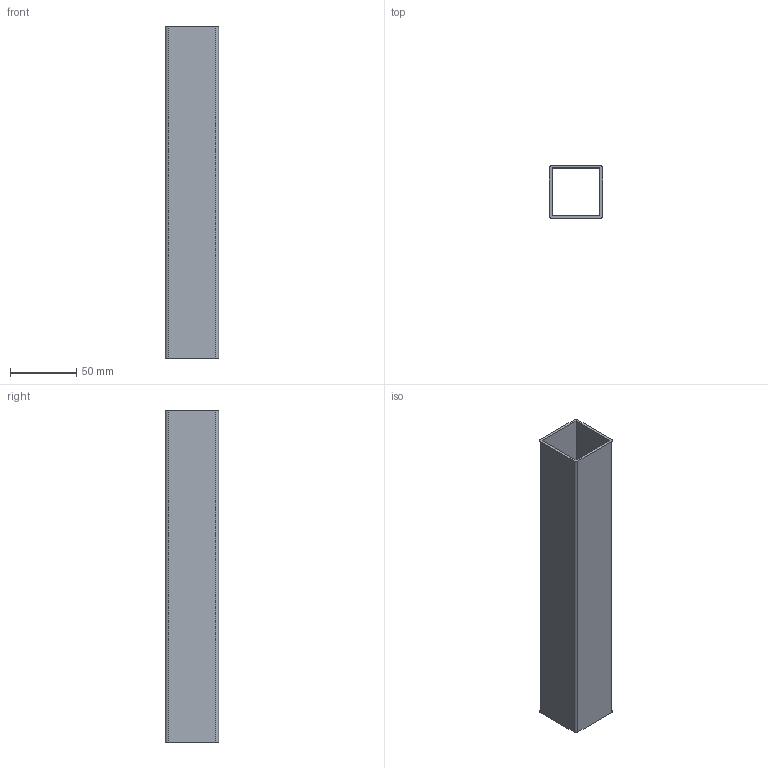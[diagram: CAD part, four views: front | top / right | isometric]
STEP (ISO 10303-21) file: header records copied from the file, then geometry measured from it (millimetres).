
FILE_DESCRIPTION(/* description */ ('FYRKANTSRÖR 40X40'),/* implementation_level */ '2;1');
FILE_NAME(/* name */ '500-1010-01.stp',/* time_stamp */ '2022-09-16T07:32:46+02:00',/* author */ ('MD'),/* organization */ ('CARRYLINE'),/* preprocessor_version */ 'ST-DEVELOPER v19.2',/* originating_system */ 'Autodesk Inventor 2023',/* authorisation */ '');
FILE_SCHEMA (('AUTOMOTIVE_DESIGN { 1 0 10303 214 3 1 1 }'));
Length unit declared in the file: millimetre
Products named in the file (1): 500-1010-01
Bounding box: 40 x 40 x 250 mm (x, y, z)
Volume: 75141.6 mm3; surface area: 75742.7 mm2
Topology: 1 solids, 1 shells, 14 faces, 36 edges, 24 vertices
Faces by surface type: plane 10, cylinder 4
Entity records: 475 total; most frequent: CARTESIAN_POINT 75, DIRECTION 74, ORIENTED_EDGE 72, EDGE_CURVE 36, LINE 28, VECTOR 28, VERTEX_POINT 24, AXIS2_PLACEMENT_3D 23
